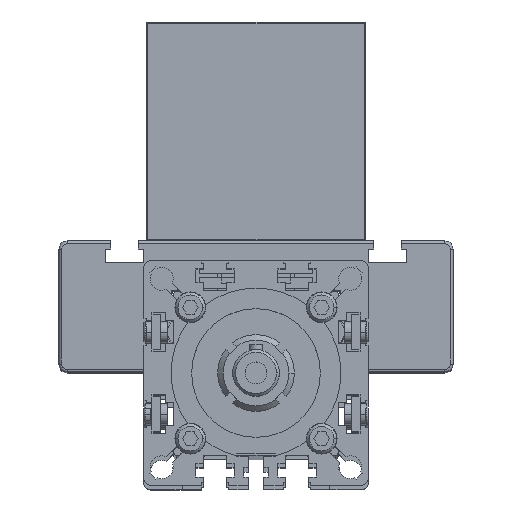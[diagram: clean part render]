
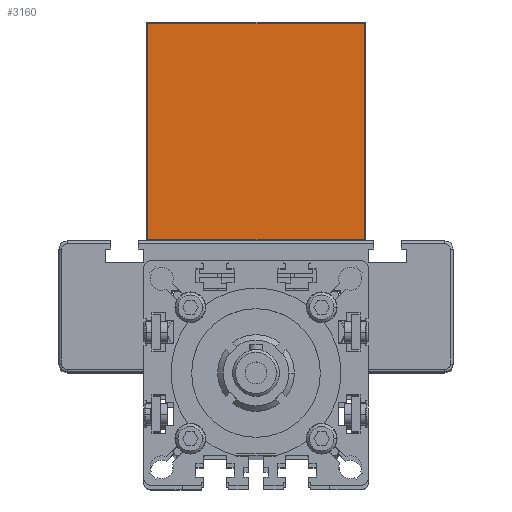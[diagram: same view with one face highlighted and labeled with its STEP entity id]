
A CAD part, top view. The second image highlights one B-rep face of the part: STEP entity #3160.
In plain terms, the highlighted planar face has unit normal (0, 0, 1) as drawn and (0, 0, -1) by its records, which use the part's own axes.
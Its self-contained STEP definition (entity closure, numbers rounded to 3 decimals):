
#2713 = DIRECTION ( 'NONE',  ( 0., 0., 1. ) ) ;
#2986 = LINE ( 'NONE', #14269, #24524 ) ;
#3160 = ADVANCED_FACE ( 'NONE', ( #37156 ), #5519, .F. ) ;
#3166 = EDGE_CURVE ( 'NONE', #9023, #36539, #11011, .T. ) ;
#3538 = EDGE_CURVE ( 'NONE', #34329, #9023, #22040, .T. ) ;
#4929 = DIRECTION ( 'NONE',  ( 0., -1., 0. ) ) ;
#5519 = PLANE ( 'NONE',  #27210 ) ;
#6219 = VECTOR ( 'NONE', #4929, 1000. ) ;
#7391 = EDGE_CURVE ( 'NONE', #36539, #9410, #13866, .T. ) ;
#7392 = ORIENTED_EDGE ( 'NONE', *, *, #7391, .T. ) ;
#9023 = VERTEX_POINT ( 'NONE', #36502 ) ;
#9410 = VERTEX_POINT ( 'NONE', #24755 ) ;
#11011 = LINE ( 'NONE', #14187, #20590 ) ;
#13866 = LINE ( 'NONE', #25320, #34757 ) ;
#14187 = CARTESIAN_POINT ( 'NONE',  ( 0., 0.5, -65. ) ) ;
#14269 = CARTESIAN_POINT ( 'NONE',  ( 80., 79.5, -65. ) ) ;
#15631 = CARTESIAN_POINT ( 'NONE',  ( 79.5, 79.5, -65. ) ) ;
#17295 = ORIENTED_EDGE ( 'NONE', *, *, #3166, .T. ) ;
#20590 = VECTOR ( 'NONE', #25643, 1000. ) ;
#22040 = LINE ( 'NONE', #25050, #6219 ) ;
#22459 = CARTESIAN_POINT ( 'NONE',  ( 80., 0., -65. ) ) ;
#24524 = VECTOR ( 'NONE', #31215, 1000. ) ;
#24755 = CARTESIAN_POINT ( 'NONE',  ( 0.5, 79.5, -65. ) ) ;
#24973 = CARTESIAN_POINT ( 'NONE',  ( 0.5, 0.5, -65. ) ) ;
#25050 = CARTESIAN_POINT ( 'NONE',  ( 79.5, 0., -65. ) ) ;
#25320 = CARTESIAN_POINT ( 'NONE',  ( 0.5, 0., -65. ) ) ;
#25643 = DIRECTION ( 'NONE',  ( -1., 0., 0. ) ) ;
#25701 = ORIENTED_EDGE ( 'NONE', *, *, #3538, .T. ) ;
#27210 = AXIS2_PLACEMENT_3D ( 'NONE', #22459, #2713, #33963 ) ;
#31215 = DIRECTION ( 'NONE',  ( 1., 0., 0. ) ) ;
#31435 = ORIENTED_EDGE ( 'NONE', *, *, #33449, .T. ) ;
#31917 = DIRECTION ( 'NONE',  ( 0., 1., 0. ) ) ;
#32727 = EDGE_LOOP ( 'NONE', ( #25701, #17295, #7392, #31435 ) ) ;
#33449 = EDGE_CURVE ( 'NONE', #9410, #34329, #2986, .T. ) ;
#33963 = DIRECTION ( 'NONE',  ( 1., 0., 0. ) ) ;
#34329 = VERTEX_POINT ( 'NONE', #15631 ) ;
#34757 = VECTOR ( 'NONE', #31917, 1000. ) ;
#36502 = CARTESIAN_POINT ( 'NONE',  ( 79.5, 0.5, -65. ) ) ;
#36539 = VERTEX_POINT ( 'NONE', #24973 ) ;
#37156 = FACE_OUTER_BOUND ( 'NONE', #32727, .T. ) ;
